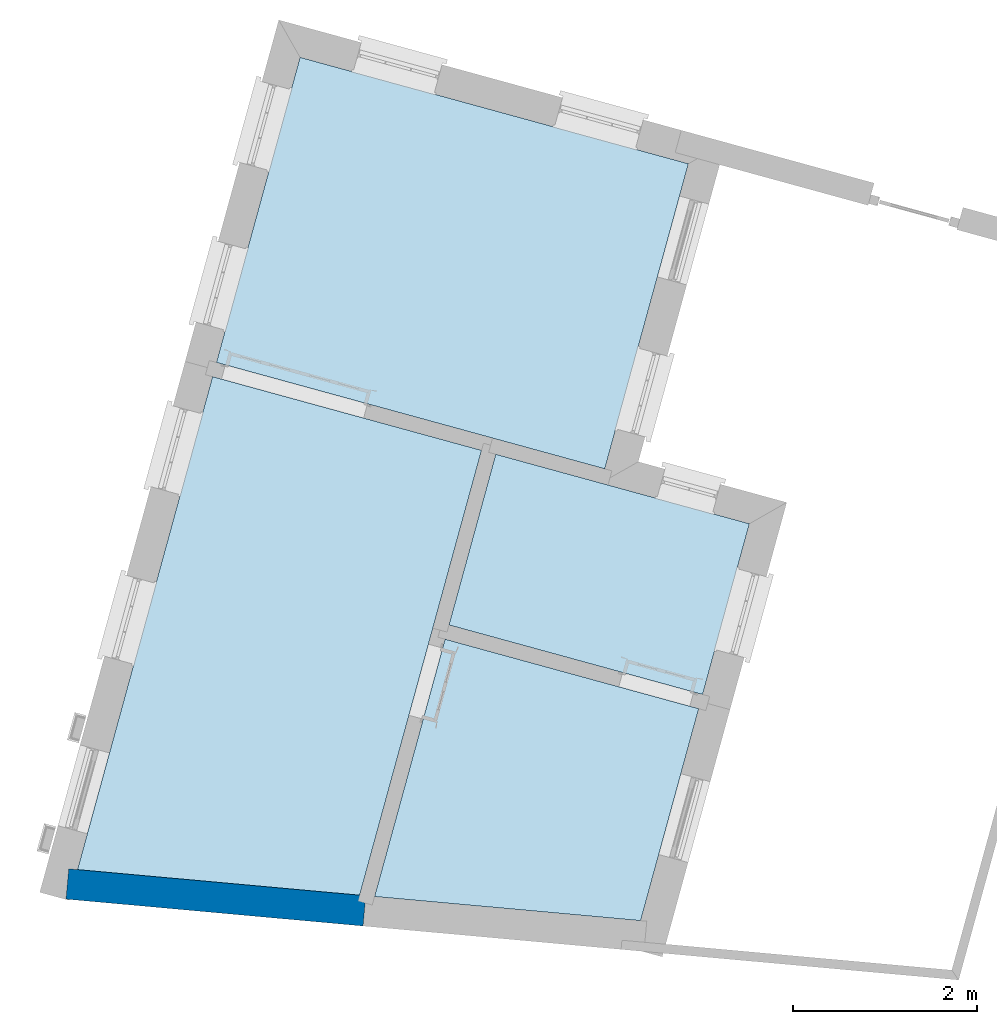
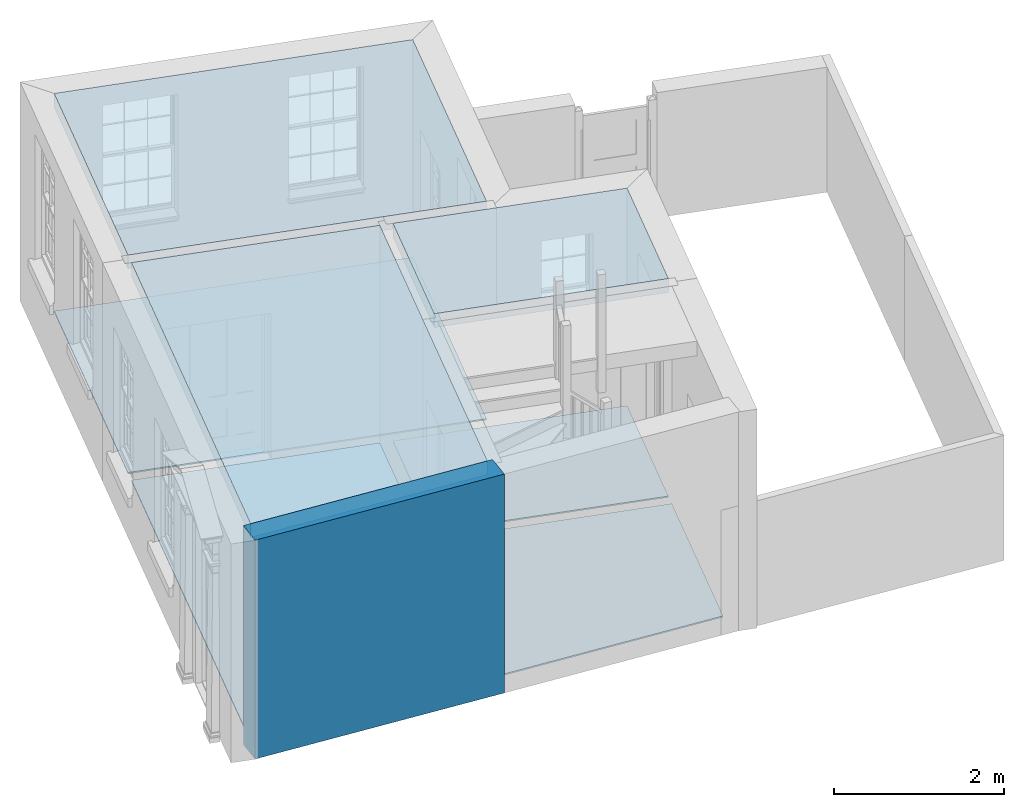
# One storey, part 1 of 8: 7 slabs, 1 wall.
"""IFC4 building model written with IfcOpenShell, lengths in metres."""

import ifcopenshell
import ifcopenshell.guid

model = None  # the IFC model being written
_history = None  # IfcOwnerHistory: only IFC2X3 demands one
_inside = {}  # id of a spatial element -> (the spatial element, [elements in it])
_under = {}  # id of a project, library or spatial element -> (it, [spatial elements below it])
_declared = {}  # id of a project -> (the project, [libraries it declares])
_typed = {}  # id of a type object -> (the type object, [elements of that type])
_made_of = {}  # id of a material, layer set ... -> (it, [elements and type objects made of it])


def new_model(schema):
    """Start an empty IFC model of exactly this schema.

    Asked for "IFC4X3", IfcOpenShell would pick the latest addendum, in which some entities
    have other attributes; the version numbers below select the first issue.
    IFC2X3 requires an IfcOwnerHistory on every rooted entity: one is made here for all.
    """
    global model, _history
    if schema == "IFC4X3":
        model = ifcopenshell.file(schema_version=(4, 3, 0, 0))
    else:
        model = ifcopenshell.file(schema=schema)
    _inside.clear()
    _under.clear()
    _declared.clear()
    _typed.clear()
    _made_of.clear()
    _history = None
    if model.schema == "IFC2X3":
        org = make("IfcOrganization", Name="unknown")
        user = make(
            "IfcPersonAndOrganization",
            ThePerson=make("IfcPerson", FamilyName="unknown"),
            TheOrganization=org,
        )
        app = make(
            "IfcApplication",
            ApplicationDeveloper=org,
            Version="unknown",
            ApplicationFullName="unknown",
            ApplicationIdentifier="unknown",
        )
        _history = make(
            "IfcOwnerHistory",
            OwningUser=user,
            OwningApplication=app,
            ChangeAction="ADDED",
            CreationDate=0,
        )
    return model


def make(cls, **values):
    """One entity of the class cls with the attributes given. An attribute that is None is left unset."""
    return model.create_entity(
        cls, **{name: value for name, value in values.items() if value is not None}
    )


def rooted(cls, **values):
    """An entity with a GlobalId (a new one), such as an element, a storey or a relation."""
    return make(cls, GlobalId=ifcopenshell.guid.new(), OwnerHistory=_history, **values)


def si_unit(unit_type, name, prefix=None):
    """IfcSIUnit, for example si_unit("LENGTHUNIT", "METRE", prefix="MILLI")."""
    return make("IfcSIUnit", UnitType=unit_type, Prefix=prefix, Name=name)


def assignment(units):
    """IfcUnitAssignment: the units of a project."""
    return None if units is None else make("IfcUnitAssignment", Units=units)


def point(xyz):
    """IfcCartesianPoint."""
    return None if xyz is None else make("IfcCartesianPoint", Coordinates=xyz)


def direction(xyz):
    """IfcDirection."""
    return None if xyz is None else make("IfcDirection", DirectionRatios=xyz)


def frame(location, z_axis=None, x_axis=None):
    """IfcAxis2Placement3D, a coordinate frame: its origin and axes. An axis left out is left unset."""
    return make(
        "IfcAxis2Placement3D",
        Location=point(location),
        Axis=direction(z_axis),
        RefDirection=direction(x_axis),
    )


def origin_with_axes():
    """The frame at (0, 0, 0) with the z axis (0, 0, 1) and the x axis (1, 0, 0) written out."""
    return frame((0.0, 0.0, 0.0), z_axis=(0.0, 0.0, 1.0), x_axis=(1.0, 0.0, 0.0))


def place(relative_to, where):
    """IfcLocalPlacement: puts the frame where relative to a parent placement (None: the world)."""
    return make(
        "IfcLocalPlacement", PlacementRelTo=relative_to, RelativePlacement=where
    )


def context(
    kind, dimensions, precision=None, world=None, true_north=None, identifier=None
):
    """IfcGeometricRepresentationContext, for example the 3D "Model" context."""
    return make(
        "IfcGeometricRepresentationContext",
        ContextIdentifier=identifier,
        ContextType=kind,
        CoordinateSpaceDimension=dimensions,
        Precision=precision,
        WorldCoordinateSystem=world,
        TrueNorth=true_north,
    )


def subcontext(parent, identifier, kind, view, scale=None):
    """IfcGeometricRepresentationSubContext, for example "Body" below "Model"."""
    return make(
        "IfcGeometricRepresentationSubContext",
        ContextIdentifier=identifier,
        ContextType=kind,
        ParentContext=parent,
        TargetScale=scale,
        TargetView=view,
    )


def project(units=None, contexts=None):
    """IfcProject with its units and contexts."""
    return rooted(
        "IfcProject",
        Name="project",
        RepresentationContexts=contexts,
        UnitsInContext=assignment(units),
    )


def spatial(cls, under=None, at=None, **own):
    """A site, building, storey or space (cls), placed at a placement, below another one or the project."""
    s = rooted(cls, ObjectPlacement=at, **own)
    if under is not None:
        _under.setdefault(under.id(), (under, []))[1].append(s)
    return s


def polyline(points):
    """IfcPolyline through the points."""
    return make("IfcPolyline", Points=[point(p) for p in points])


def outline(outer, holes=None, kind="AREA"):
    """IfcArbitraryClosedProfileDef: a profile drawn as a closed curve; with holes, ...WithVoids."""
    if holes is None:
        return make("IfcArbitraryClosedProfileDef", ProfileType=kind, OuterCurve=outer)
    return make(
        "IfcArbitraryProfileDefWithVoids",
        ProfileType=kind,
        OuterCurve=outer,
        InnerCurves=holes,
    )


def extrude(swept, where, along, depth):
    """IfcExtrudedAreaSolid: the profile swept, set in the frame where, extruded along a direction by depth."""
    return make(
        "IfcExtrudedAreaSolid",
        SweptArea=swept,
        Position=where,
        ExtrudedDirection=direction(along),
        Depth=depth,
    )


def shape(context_of_items, identifier, shape_type, items):
    """IfcShapeRepresentation: the items that make up one representation, for example the "Body"."""
    return make(
        "IfcShapeRepresentation",
        ContextOfItems=context_of_items,
        RepresentationIdentifier=identifier,
        RepresentationType=shape_type,
        Items=items,
    )


def material(Name=None, Category=None):
    """IfcMaterial."""
    return make("IfcMaterial", Name=Name, Category=Category)


def layer(
    of_material, thickness, ventilated=None, Name=None, Category=None, Priority=None
):
    """IfcMaterialLayer: one layer of a wall or slab, of a material (None: an air gap)."""
    return make(
        "IfcMaterialLayer",
        Material=of_material,
        LayerThickness=thickness,
        IsVentilated=ventilated,
        Name=Name,
        Category=Category,
        Priority=Priority,
    )


def layer_set(layers, Name=None):
    """IfcMaterialLayerSet."""
    return make("IfcMaterialLayerSet", MaterialLayers=layers, LayerSetName=Name)


def layer_usage(for_layer_set, set_direction, sense, offset, extent=None):
    """IfcMaterialLayerSetUsage: how a layer set lies in its element."""
    return make(
        "IfcMaterialLayerSetUsage",
        ForLayerSet=for_layer_set,
        LayerSetDirection=set_direction,
        DirectionSense=sense,
        OffsetFromReferenceLine=offset,
        ReferenceExtent=extent,
    )


def made_of(thing, what):
    """Note that an element or type object is made of a material, layer set ...; save() writes the relation."""
    if what is not None:
        _made_of.setdefault(what.id(), (what, []))[1].append(thing)
    return thing


def type_object(cls, material=None, **own):
    """A type object (cls), such as IfcWallType, which elements share."""
    return made_of(rooted(cls, **own), material)


def element(
    cls,
    number,
    at=None,
    inside=None,
    cuts=None,
    type_object=None,
    material=None,
    context=None,
    identifier="Body",
    shape_type=None,
    held_by="IfcProductDefinitionShape",
    body=None,
    shapes=None,
    **own,
):
    """One element of the class cls, such as IfcWall. Its Tag is "e" and its number.

    at: its placement. inside: the storey or other place that contains it. cuts: it is an
    opening in that element (IfcRelVoidsElement). A single representation is given by context,
    identifier, shape_type and body (its items); several are given by shapes. held_by: the class
    of the entity that holds the representations. save() writes the other relations.
    """
    e = rooted(cls, Tag="e%d" % number, ObjectPlacement=at, **own)
    if body is not None:
        shapes = [shape(context, identifier, shape_type, body)]
    if shapes is not None:
        e.Representation = make(held_by, Representations=shapes)
    if inside is not None:
        _inside.setdefault(inside.id(), (inside, []))[1].append(e)
    if cuts is not None:
        rooted(
            "IfcRelVoidsElement", RelatingBuildingElement=cuts, RelatedOpeningElement=e
        )
    if type_object is not None:
        _typed.setdefault(type_object.id(), (type_object, []))[1].append(e)
    return made_of(e, material)


def aggregate(whole, parts):
    """IfcRelAggregates: a whole, such as a stair, and the parts it consists of."""
    return rooted("IfcRelAggregates", RelatingObject=whole, RelatedObjects=parts)


def save(model, path):
    """Write the relations noted so far, then the file.

    IfcRelAggregates (storeys below a building ...), IfcRelContainedInSpatialStructure (elements
    in a storey), IfcRelDefinesByType, IfcRelAssociatesMaterial and IfcRelDeclares: one each for
    every whole, place, type object, material and project.
    """
    for whole, parts in _under.values():
        aggregate(whole, parts)
    for where, things in _inside.values():
        rooted(
            "IfcRelContainedInSpatialStructure",
            RelatedElements=things,
            RelatingStructure=where,
        )
    for kind, things in _typed.values():
        rooted("IfcRelDefinesByType", RelatedObjects=things, RelatingType=kind)
    for what, things in _made_of.values():
        rooted("IfcRelAssociatesMaterial", RelatedObjects=things, RelatingMaterial=what)
    for by, libraries in _declared.values():
        rooted("IfcRelDeclares", RelatingContext=by, RelatedDefinitions=libraries)
    model.write(path)


model = new_model("IFC4")

# Units and contexts
model_context = context("Model", 3, world=origin_with_axes())
body_context = subcontext(model_context, "Body", "Model", "MODEL_VIEW")
ifc_project = project(units=[si_unit("PLANEANGLEUNIT", "RADIAN"), si_unit("MASSUNIT", "GRAM", prefix="KILO"), si_unit("FORCEUNIT", "NEWTON", prefix="KILO"), si_unit("LENGTHUNIT", "METRE"), si_unit("AREAUNIT", "SQUARE_METRE"), si_unit("VOLUMEUNIT", "CUBIC_METRE")], contexts=[model_context, model_context])

# Sites, building, storey
site_1_placement = place(None, origin_with_axes())
site_1 = spatial("IfcSite", under=ifc_project, at=site_1_placement, Name="Tamar")
site_2_placement = place(site_1_placement, origin_with_axes())
site_2 = spatial("IfcSite", under=site_1, at=site_2_placement, Name="Site plot-28", CompositionType="ELEMENT")
building_placement = place(None, origin_with_axes())
building = spatial("IfcBuilding", under=site_2, at=building_placement, Name="Building plot-28", CompositionType="ELEMENT")
storey_placement = place(None, frame((0.0, 0.0, 24.0), z_axis=(0.0, 0.0, 1.0), x_axis=(1.0, 0.0, 0.0)))
storey = spatial("IfcBuildingStorey", under=building, at=storey_placement, Name="plot-28 0", CompositionType="ELEMENT", Elevation=24.0)

# Slabs
slab_1_placement = place(storey_placement, frame((264.912556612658, 264.099024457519, 2.95)))
element("IfcSlab", 1, at=slab_1_placement, inside=storey, Name="My Slab", ObjectType="Slab", PredefinedType="FLOOR", context=body_context, shape_type="SweptSolid", body=[
    extrude(outline(polyline([(0.0, 0.0), (0.907259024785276, 3.31122380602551), (-3.30715476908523, 4.46595244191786), (-4.21441379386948, 1.15472863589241), (0.0, 0.0)])), origin_with_axes(), (0.0, 0.0, 1.0), 0.2),
])
slab_2_placement = place(storey_placement, frame((264.912556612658, 264.099024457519, 0.0)))
element("IfcSlab", 2, at=slab_2_placement, inside=storey, Name="My Slab", ObjectType="Slab", PredefinedType="FLOOR", context=body_context, shape_type="SweptSolid", body=[
    extrude(outline(polyline([(0.0, 0.0), (0.907259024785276, 3.31122380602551), (-3.30715476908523, 4.46595244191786), (-4.21441379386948, 1.15472863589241), (0.0, 0.0)])), origin_with_axes(), (0.0, 0.0, 1.0), 0.02),
])
slab_3_placement = place(storey_placement, frame((265.301564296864, 259.19558487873, 0.0)))
element("IfcSlab", 3, at=slab_3_placement, inside=storey, Name="My Slab", ObjectType="Slab", PredefinedType="FLOOR", context=body_context, shape_type="SweptSolid", body=[
    extrude(outline(polyline([(0.0, 0.0), (0.630315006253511, 2.300461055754), (-2.12220536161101, 3.05463808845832), (-2.88746696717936, 0.261662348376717), (0.0, 0.0)])), origin_with_axes(), (0.0, 0.0, 1.0), 0.02),
])
slab_4_placement = place(storey_placement, frame((265.974160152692, 261.650358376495, 2.95)))
element("IfcSlab", 4, at=slab_4_placement, inside=storey, Name="My Slab", ObjectType="Slab", PredefinedType="FLOOR", context=body_context, shape_type="SweptSolid", body=[
    extrude(outline(polyline([(0.0, 0.0), (0.507657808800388, 1.85279900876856), (-2.24486255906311, 2.60697604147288), (-2.75252036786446, 0.754177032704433), (0.0, 0.0)])), origin_with_axes(), (0.0, 0.0, 1.0), 0.2),
])
slab_5_placement = place(storey_placement, frame((265.974160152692, 261.650358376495, 0.0)))
element("IfcSlab", 5, at=slab_5_placement, inside=storey, Name="My Slab", ObjectType="Slab", PredefinedType="FLOOR", context=body_context, shape_type="SweptSolid", body=[
    extrude(outline(polyline([(0.0, 0.0), (0.507657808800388, 1.85279900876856), (-2.24486255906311, 2.60697604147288), (-2.75252036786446, 0.754177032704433), (0.0, 0.0)])), origin_with_axes(), (0.0, 0.0, 1.0), 0.02),
])
slab_6_placement = place(storey_placement, frame((259.189981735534, 259.749416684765, 2.95)))
element("IfcSlab", 6, at=slab_6_placement, inside=storey, Name="My Slab", ObjectType="Slab", PredefinedType="FLOOR", context=body_context, shape_type="SweptSolid", body=[
    extrude(outline(polyline([(0.0, 0.0), (3.06223774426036, -0.277500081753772), (4.38500341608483, 4.55019858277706), (1.46588023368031, 5.35002396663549), (0.0, 0.0)])), origin_with_axes(), (0.0, 0.0, 1.0), 0.2),
])
slab_7_placement = place(storey_placement, frame((259.189981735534, 259.749416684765, 0.0)))
element("IfcSlab", 7, at=slab_7_placement, inside=storey, Name="My Slab", ObjectType="Slab", PredefinedType="FLOOR", context=body_context, shape_type="SweptSolid", body=[
    extrude(outline(polyline([(0.0, 0.0), (3.06223774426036, -0.277500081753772), (4.38500341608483, 4.55019858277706), (1.46588023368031, 5.35002396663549), (0.0, 0.0)])), origin_with_axes(), (0.0, 0.0, 1.0), 0.02),
])

# Wall
ifc_material = material(Name="Masonry")
ifc_layer = layer(ifc_material, 0.33, ventilated=False)
ifc_layer_set = layer_set([ifc_layer], Name="party_0.08_0.25")
ifc_layer_usage = layer_usage(ifc_layer_set, "AXIS2", "POSITIVE", -0.25)
wall_type = type_object("IfcWallType", Name="party_0.08_0.25", PredefinedType="SOLIDWALL", material=ifc_layer_set)
wall_placement = place(storey_placement, frame((259.087566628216, 259.678369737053, 0.0), z_axis=(0.0, 0.0, 1.0), x_axis=(0.99591912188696, -0.0902502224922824, 0.0)))
element("IfcWall", 8, at=wall_placement, inside=storey, type_object=wall_type, material=ifc_layer_usage, Name="party", context=body_context, shape_type="SweptSolid", body=[
    extrude(outline(polyline([(1.58322380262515e-14, 0.0799999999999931), (-2.42487861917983e-14, -0.250000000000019), (3.23732672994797, -0.250000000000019), (3.23732672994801, 0.0799999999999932), (1.58322380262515e-14, 0.0799999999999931)])), origin_with_axes(), (0.0, 0.0, 1.0), 3.15),
])

save(model, "model.ifc")
